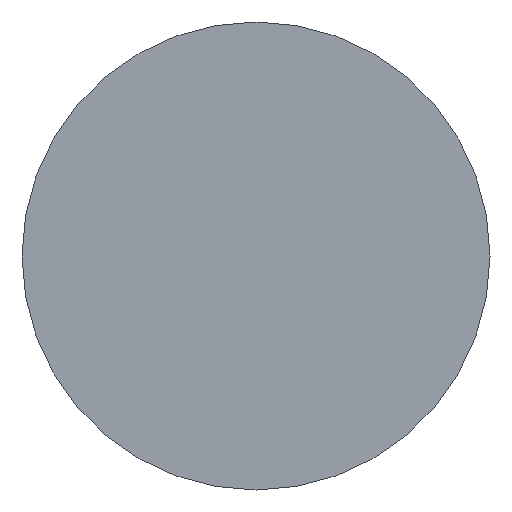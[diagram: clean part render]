
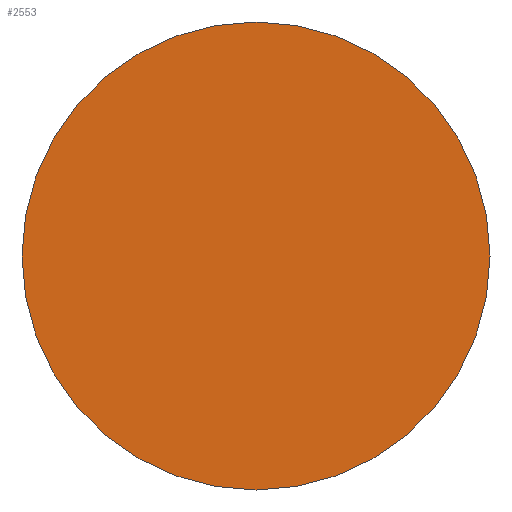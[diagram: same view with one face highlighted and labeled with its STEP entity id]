
A CAD part, left-side view. The second image highlights one B-rep face of the part: STEP entity #2553.
In plain terms, the highlighted planar face has unit normal (-1, 0, 0).
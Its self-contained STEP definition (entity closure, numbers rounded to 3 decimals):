
#37 = DIRECTION ( 'NONE',  ( -1., 0., 0. ) ) ;
#85 = EDGE_CURVE ( 'NONE', #501, #3455, #3402, .T. ) ;
#88 = ORIENTED_EDGE ( 'NONE', *, *, #85, .T. ) ;
#243 = AXIS2_PLACEMENT_3D ( 'NONE', #3568, #3876, #3838 ) ;
#501 = VERTEX_POINT ( 'NONE', #1960 ) ;
#809 = EDGE_CURVE ( 'NONE', #3455, #501, #3720, .T. ) ;
#816 = AXIS2_PLACEMENT_3D ( 'NONE', #3616, #37, #2135 ) ;
#870 = DIRECTION ( 'NONE',  ( 0., 0., 1. ) ) ;
#883 = CARTESIAN_POINT ( 'NONE',  ( -690., 0., 0. ) ) ;
#962 = ORIENTED_EDGE ( 'NONE', *, *, #809, .T. ) ;
#1863 = EDGE_LOOP ( 'NONE', ( #962, #88 ) ) ;
#1960 = CARTESIAN_POINT ( 'NONE',  ( -690., 0., 150. ) ) ;
#2135 = DIRECTION ( 'NONE',  ( 0., 0., 1. ) ) ;
#2384 = PLANE ( 'NONE',  #2903 ) ;
#2397 = FACE_OUTER_BOUND ( 'NONE', #1863, .T. ) ;
#2553 = ADVANCED_FACE ( 'NONE', ( #2397 ), #2384, .T. ) ;
#2566 = CARTESIAN_POINT ( 'NONE',  ( -690., 0., -150. ) ) ;
#2710 = DIRECTION ( 'NONE',  ( -1., 0., 0. ) ) ;
#2903 = AXIS2_PLACEMENT_3D ( 'NONE', #883, #2710, #870 ) ;
#3402 = CIRCLE ( 'NONE', #243, 150. ) ;
#3455 = VERTEX_POINT ( 'NONE', #2566 ) ;
#3568 = CARTESIAN_POINT ( 'NONE',  ( -690., 0., 0. ) ) ;
#3616 = CARTESIAN_POINT ( 'NONE',  ( -690., 0., 0. ) ) ;
#3720 = CIRCLE ( 'NONE', #816, 150. ) ;
#3838 = DIRECTION ( 'NONE',  ( 0., 0., 1. ) ) ;
#3876 = DIRECTION ( 'NONE',  ( -1., 0., 0. ) ) ;
